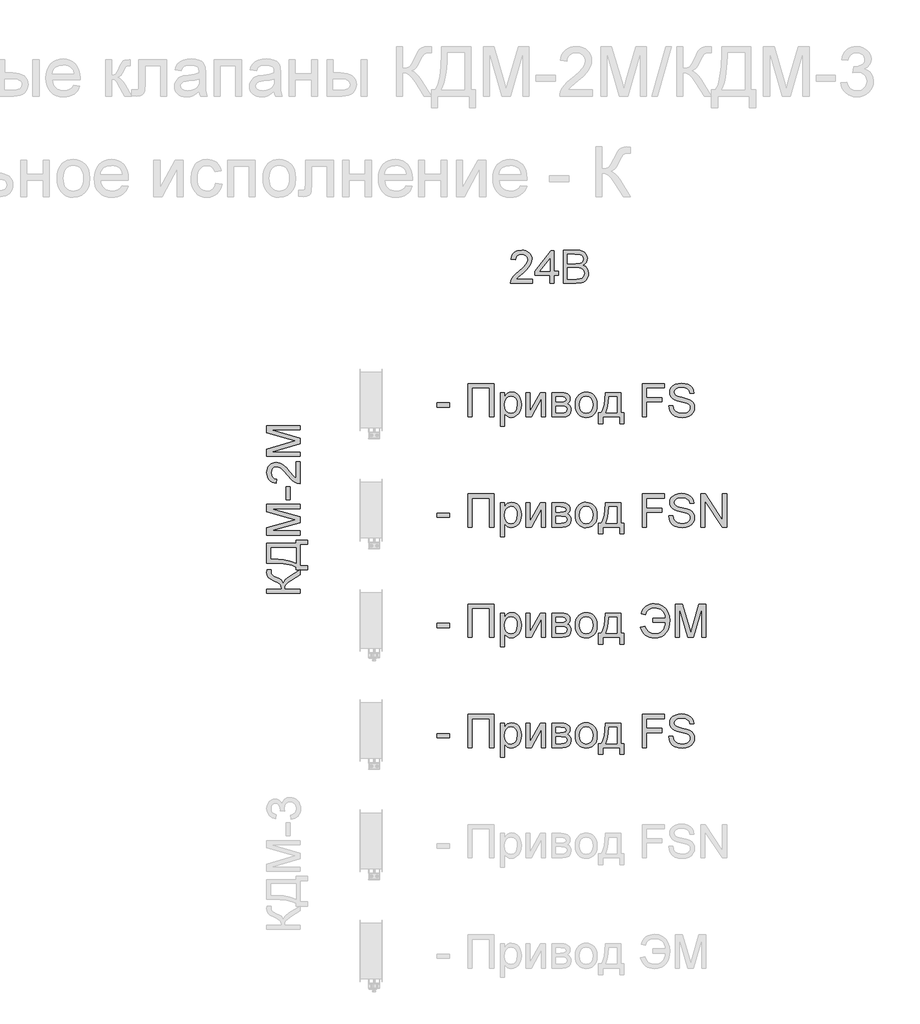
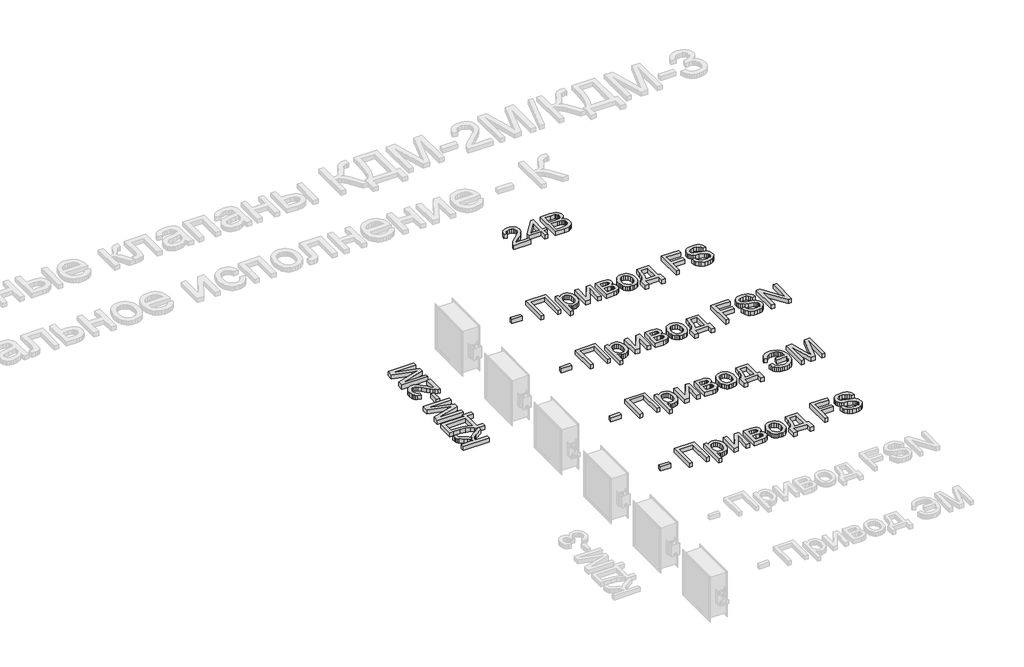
# One storey, part 14 of 23: 6 proxies.
"""IFC4 building model written with IfcOpenShell, lengths in millimetres."""

from ifc_helpers import new_model, si_unit, origin, origin_with_axes, place, context, project, spatial, polyline, outline, extrude, element, save

model = new_model("IFC4")

# Units and contexts
model_context = context("Model", 3, world=origin())
ifc_project = project(units=[si_unit("LENGTHUNIT", "METRE", prefix="MILLI")], contexts=[model_context])

# Site, building, storey
site = spatial("IfcSite", under=ifc_project)
building = spatial("IfcBuilding", under=site)
storey = spatial("IfcBuildingStorey", under=building, Name="Этаж 01", Elevation=0.0)

# Proxies
placement = place(None, origin())
element("IfcBuildingElementProxy", 1, Name="300 мм Arial", ObjectType="300 мм Arial", at=placement, inside=storey, context=model_context, shape_type="SweptSolid", body=[
    extrude(outline(polyline([(9504.7738082, -4434.3206311), (9504.7738082, -4396.6495148), (9622.4960467, -4396.6495148), (9622.4960467, -4434.3206311), (9504.7738082, -4434.3206311)])), origin_with_axes(), (0.0, 0.0, 1.0), 50.0),
    extrude(outline(polyline([(9787.3071805, -4222.4206019), (10022.7516574, -4222.4206019), (10022.7516574, -4523.7895324), (9985.0805411, -4523.7895324), (9985.0805411, -4260.0917182), (9824.9782968, -4260.0917182), (9824.9782968, -4523.7895324), (9787.3071805, -4523.7895324), (9787.3071805, -4222.4206019)])), origin_with_axes(), (0.0, 0.0, 1.0), 50.0),
    extrude(outline(polyline([(10083.9672214, -4608.5495441), (10083.9672214, -4302.4717241), (10121.6383378, -4302.4717241), (10121.6383378, -4339.4070764), (10133.9255964, -4321.1877206), (10147.684383, -4308.173895), (10163.724038, -4300.3655996), (10182.8539017, -4297.7628345), (10208.3297299, -4301.4048663), (10230.6049847, -4312.3309615), (10248.7415671, -4329.8789327), (10261.8013779, -4353.3865922), (10269.6924467, -4381.1432887), (10272.322803, -4411.438371), (10269.3521559, -4443.6556368), (10260.4402145, -4472.469994), (10245.8720875, -4496.4191119), (10225.9328834, -4514.0406595), (10202.7103324, -4524.8839813), (10178.292165, -4528.4984219), (10160.9741201, -4526.0795978), (10145.5138792, -4518.8231254), (10132.2793245, -4507.869439), (10121.6383378, -4494.3589728), (10121.6383378, -4608.5495441), (10083.9672214, -4608.5495441)]), holes=[polyline([(10121.6383378, -4414.8964618), (10125.7126308, -4448.668029), (10137.9355101, -4472.286053), (10155.970925, -4486.1919925), (10177.4828246, -4490.8273056), (10199.3442122, -4486.0264456), (10217.8394795, -4471.6238655), (10230.4486349, -4447.1413187), (10234.6516867, -4412.1005586), (10230.5498024, -4378.5129325), (10218.2441497, -4354.5638146), (10200.236326, -4340.2164168), (10179.027929, -4335.4339508), (10157.7367585, -4340.5199194), (10139.0391561, -4355.7778252), (10125.9885423, -4380.7294215), (10121.6383378, -4414.8964618)])]), origin_with_axes(), (0.0, 0.0, 1.0), 50.0),
    extrude(outline(polyline([(10314.7028088, -4302.4717241), (10352.3739251, -4302.4717241), (10352.3739251, -4471.2559835), (10444.9330351, -4302.4717241), (10493.6406113, -4302.4717241), (10493.6406113, -4523.7895324), (10455.969495, -4523.7895324), (10455.969495, -4356.0353426), (10363.9989962, -4523.7895324), (10314.7028088, -4523.7895324), (10314.7028088, -4302.4717241)])), origin_with_axes(), (0.0, 0.0, 1.0), 50.0),
    extrude(outline(polyline([(10550.1472857, -4302.4717241), (10633.1414638, -4302.4717241), (10659.8221055, -4303.7317199), (10678.6484666, -4307.5117074), (10692.4992238, -4314.6486181), (10704.2530535, -4325.9793836), (10712.2820781, -4340.7406486), (10714.9584196, -4358.1690581), (10713.3397388, -4372.2129533), (10708.4836965, -4384.325468), (10700.3718985, -4394.5617845), (10688.9859507, -4402.9770852), (10702.9286783, -4410.8037746), (10714.296232, -4423.3945359), (10721.856207, -4439.7560876), (10724.3761986, -4458.8951484), (10717.993446, -4487.6083381), (10702.8183137, -4507.8234538), (10678.7956194, -4519.7980127), (10645.8701809, -4523.7895324), (10550.1472857, -4523.7895324), (10550.1472857, -4302.4717241)]), holes=[polyline([(10587.818402, -4486.1184161), (10634.0243806, -4486.1184161), (10659.2059032, -4484.4169618), (10675.0064349, -4479.3125992), (10683.4861149, -4470.0327758), (10686.7050823, -4455.8049397), (10685.0955986, -4446.3779635), (10680.2671474, -4437.6683573), (10672.8543252, -4430.8533433), (10663.4917284, -4427.110144), (10630.3455607, -4424.9028521), (10587.818402, -4424.9028521), (10587.818402, -4486.1184161)]), polyline([(10587.818402, -4387.2317358), (10625.04806, -4387.2317358), (10655.7662065, -4385.3187494), (10670.7022156, -4377.6668039), (10675.6410313, -4371.3392336), (10677.2873033, -4363.8344409), (10674.3994296, -4352.5956459), (10665.7358086, -4345.3667647), (10650.0824297, -4341.4488215), (10626.2252823, -4340.1428404), (10587.818402, -4340.1428404), (10587.818402, -4387.2317358)])]), origin_with_axes(), (0.0, 0.0, 1.0), 50.0),
    extrude(outline(polyline([(10762.047315, -4413.1306282), (10764.0844615, -4384.4680223), (10770.1959011, -4359.7693448), (10780.3816339, -4339.0345959), (10794.6416597, -4322.2637754), (10808.9982546, -4311.5446138), (10824.8447715, -4303.8880698), (10842.1812106, -4299.2941433), (10861.0075717, -4297.7628345), (10881.7906051, -4299.6275364), (10900.5824773, -4305.221642), (10917.3831882, -4314.5451513), (10932.1927377, -4327.5980643), (10944.2799605, -4343.9389227), (10952.9136911, -4363.126268), (10958.0939294, -4385.1601003), (10959.8206756, -4410.0404195), (10956.767255, -4448.0978119), (10947.6069933, -4477.068519), (10932.606605, -4498.7643596), (10912.0328044, -4514.9971527), (10887.5962429, -4525.1231046), (10861.0075717, -4528.4984219), (10839.9210355, -4526.6406178), (10820.9544194, -4521.0672056), (10804.1077233, -4511.7781852), (10789.3809472, -4498.7735567), (10777.4224831, -4482.2740492), (10768.880723, -4462.500392), (10763.755667, -4439.452585), (10762.047315, -4413.1306282)]), holes=[polyline([(10799.7184313, -4413.0570518), (10804.0778329, -4447.1505157), (10817.1560378, -4471.4399245), (10836.8377246, -4485.9804603), (10861.0075717, -4490.8273056), (10885.0670541, -4485.9528692), (10904.7119527, -4471.3295599), (10917.7901576, -4446.7182544), (10922.1495593, -4411.8798294), (10917.7625665, -4378.7796469), (10904.6015881, -4354.821332), (10884.9290984, -4340.2807961), (10861.0075717, -4335.4339508), (10836.8377246, -4340.262402), (10817.1560378, -4354.7477556), (10804.0778329, -4378.981982), (10799.7184313, -4413.0570518)])]), origin_with_axes(), (0.0, 0.0, 1.0), 50.0),
    extrude(outline(polyline([(11035.1629082, -4302.4717241), (11176.4295943, -4302.4717241), (11176.4295943, -4486.1184161), (11204.6829316, -4486.1184161), (11204.6829316, -4585.0050964), (11167.0118152, -4585.0050964), (11167.0118152, -4523.7895324), (11011.6184605, -4523.7895324), (11011.6184605, -4585.0050964), (10973.9473442, -4585.0050964), (10973.9473442, -4486.1184161), (10997.4917919, -4486.1184161), (11014.6075017, -4455.1887373), (11026.5912577, -4414.2710624), (11033.4430598, -4363.3653913), (11035.1629082, -4302.4717241)]), holes=[polyline([(11068.1251349, -4340.1428404), (11065.0349262, -4386.2660455), (11059.2959671, -4425.9697099), (11050.9082576, -4459.2538334), (11039.8717977, -4486.1184161), (11138.758478, -4486.1184161), (11138.758478, -4340.1428404), (11068.1251349, -4340.1428404)])]), origin_with_axes(), (0.0, 0.0, 1.0), 50.0),
    extrude(outline(polyline([(11369.4940654, -4523.7895324), (11369.4940654, -4222.4206019), (11571.9763155, -4222.4206019), (11571.9763155, -4260.0917182), (11407.1651817, -4260.0917182), (11407.1651817, -4349.5606195), (11548.4318678, -4349.5606195), (11548.4318678, -4387.2317358), (11407.1651817, -4387.2317358), (11407.1651817, -4523.7895324), (11369.4940654, -4523.7895324)])), origin_with_axes(), (0.0, 0.0, 1.0), 50.0),
    extrude(outline(polyline([(11609.6474318, -4420.1939625), (11647.3185481, -4420.1939625), (11651.6411616, -4441.0988569), (11659.458654, -4457.901867), (11671.6539421, -4471.2375894), (11689.1099428, -4481.7406203), (11710.4470985, -4488.5556343), (11734.2858518, -4490.8273056), (11755.2735196, -4489.1074573), (11773.6492253, -4483.9479123), (11788.539249, -4475.780932), (11799.0698712, -4465.0387777), (11805.3330621, -4452.7055339), (11807.4207924, -4439.7652847), (11805.857294, -4427.1561293), (11801.1667985, -4416.2576252), (11791.6386549, -4406.9594078), (11775.5622117, -4399.1511124), (11720.7110062, -4384.7669264), (11684.7045559, -4375.2479798), (11661.665946, -4366.1888856), (11642.9131613, -4353.5153509), (11629.6234242, -4338.1562776), (11621.7047642, -4320.4427595), (11619.0652109, -4300.7058905), (11622.3301636, -4278.6421678), (11632.1250217, -4258.0683673), (11648.1922679, -4240.6307607), (11670.2743846, -4227.97562), (11696.7802824, -4220.2776893), (11726.1188715, -4217.7117124), (11757.9038759, -4220.3972509), (11785.7157547, -4228.4538666), (11808.5612266, -4241.7160126), (11825.4470102, -4260.0181418), (11836.1339822, -4282.2198202), (11840.3830192, -4307.1806136), (11802.7119029, -4307.1806136), (11795.7957214, -4284.7030237), (11781.3747472, -4268.4794277), (11758.841975, -4258.6569784), (11727.5903995, -4255.3828287), (11695.60306, -4258.6201902), (11673.658899, -4268.3322749), (11660.9669702, -4282.6244904), (11656.7363272, -4299.6022445), (11659.7345655, -4314.078401), (11668.7292803, -4325.7218662), (11689.9928596, -4336.1329266), (11730.2391499, -4346.7647163), (11771.7730271, -4356.8630771), (11796.8993674, -4365.6738508), (11818.3744789, -4379.340667), (11833.3564731, -4396.2080564), (11842.1580498, -4416.0920783), (11845.0919088, -4438.8087915), (11841.7165914, -4462.0313424), (11831.5906395, -4483.8743359), (11815.1279202, -4502.6731058), (11792.7423008, -4516.7629863), (11765.8225358, -4525.564563), (11735.7573798, -4528.4984219), (11698.8496186, -4525.3346367), (11668.4717629, -4515.8432813), (11644.2743246, -4499.9875673), (11625.907816, -4477.7307066), (11614.1171981, -4450.6178035), (11609.6474318, -4420.1939625)])), origin_with_axes(), (0.0, 0.0, 1.0), 50.0),
])
element("IfcBuildingElementProxy", 2, Name="300 мм Arial", ObjectType="300 мм Arial", at=placement, inside=storey, context=model_context, shape_type="SweptSolid", body=[
    extrude(outline(polyline([(9504.7738082, -5434.3206311), (9504.7738082, -5396.6495148), (9622.4960467, -5396.6495148), (9622.4960467, -5434.3206311), (9504.7738082, -5434.3206311)])), origin_with_axes(), (0.0, 0.0, 1.0), 50.0),
    extrude(outline(polyline([(9787.3071805, -5222.4206019), (10022.7516574, -5222.4206019), (10022.7516574, -5523.7895324), (9985.0805411, -5523.7895324), (9985.0805411, -5260.0917182), (9824.9782968, -5260.0917182), (9824.9782968, -5523.7895324), (9787.3071805, -5523.7895324), (9787.3071805, -5222.4206019)])), origin_with_axes(), (0.0, 0.0, 1.0), 50.0),
    extrude(outline(polyline([(10083.9672214, -5608.5495441), (10083.9672214, -5302.4717241), (10121.6383378, -5302.4717241), (10121.6383378, -5339.4070764), (10133.9255964, -5321.1877206), (10147.684383, -5308.173895), (10163.724038, -5300.3655996), (10182.8539017, -5297.7628345), (10208.3297299, -5301.4048663), (10230.6049847, -5312.3309615), (10248.7415671, -5329.8789327), (10261.8013779, -5353.3865922), (10269.6924467, -5381.1432887), (10272.322803, -5411.438371), (10269.3521559, -5443.6556368), (10260.4402145, -5472.469994), (10245.8720875, -5496.4191119), (10225.9328834, -5514.0406595), (10202.7103324, -5524.8839813), (10178.292165, -5528.4984219), (10160.9741201, -5526.0795978), (10145.5138792, -5518.8231254), (10132.2793245, -5507.869439), (10121.6383378, -5494.3589728), (10121.6383378, -5608.5495441), (10083.9672214, -5608.5495441)]), holes=[polyline([(10121.6383378, -5414.8964618), (10125.7126308, -5448.668029), (10137.9355101, -5472.286053), (10155.970925, -5486.1919925), (10177.4828246, -5490.8273056), (10199.3442122, -5486.0264456), (10217.8394795, -5471.6238655), (10230.4486349, -5447.1413187), (10234.6516867, -5412.1005586), (10230.5498024, -5378.5129325), (10218.2441497, -5354.5638146), (10200.236326, -5340.2164168), (10179.027929, -5335.4339508), (10157.7367585, -5340.5199194), (10139.0391561, -5355.7778252), (10125.9885423, -5380.7294215), (10121.6383378, -5414.8964618)])]), origin_with_axes(), (0.0, 0.0, 1.0), 50.0),
    extrude(outline(polyline([(10314.7028088, -5302.4717241), (10352.3739251, -5302.4717241), (10352.3739251, -5471.2559835), (10444.9330351, -5302.4717241), (10493.6406113, -5302.4717241), (10493.6406113, -5523.7895324), (10455.969495, -5523.7895324), (10455.969495, -5356.0353426), (10363.9989962, -5523.7895324), (10314.7028088, -5523.7895324), (10314.7028088, -5302.4717241)])), origin_with_axes(), (0.0, 0.0, 1.0), 50.0),
    extrude(outline(polyline([(10550.1472857, -5302.4717241), (10633.1414638, -5302.4717241), (10659.8221055, -5303.7317199), (10678.6484666, -5307.5117074), (10692.4992238, -5314.6486181), (10704.2530535, -5325.9793836), (10712.2820781, -5340.7406486), (10714.9584196, -5358.1690581), (10713.3397388, -5372.2129533), (10708.4836965, -5384.325468), (10700.3718985, -5394.5617845), (10688.9859507, -5402.9770852), (10702.9286783, -5410.8037746), (10714.296232, -5423.3945359), (10721.856207, -5439.7560876), (10724.3761986, -5458.8951484), (10717.993446, -5487.6083381), (10702.8183137, -5507.8234538), (10678.7956194, -5519.7980127), (10645.8701809, -5523.7895324), (10550.1472857, -5523.7895324), (10550.1472857, -5302.4717241)]), holes=[polyline([(10587.818402, -5486.1184161), (10634.0243806, -5486.1184161), (10659.2059032, -5484.4169618), (10675.0064349, -5479.3125992), (10683.4861149, -5470.0327758), (10686.7050823, -5455.8049397), (10685.0955986, -5446.3779635), (10680.2671474, -5437.6683573), (10672.8543252, -5430.8533433), (10663.4917284, -5427.110144), (10630.3455607, -5424.9028521), (10587.818402, -5424.9028521), (10587.818402, -5486.1184161)]), polyline([(10587.818402, -5387.2317358), (10625.04806, -5387.2317358), (10655.7662065, -5385.3187494), (10670.7022156, -5377.6668039), (10675.6410313, -5371.3392336), (10677.2873033, -5363.8344409), (10674.3994296, -5352.5956459), (10665.7358086, -5345.3667647), (10650.0824297, -5341.4488215), (10626.2252823, -5340.1428404), (10587.818402, -5340.1428404), (10587.818402, -5387.2317358)])]), origin_with_axes(), (0.0, 0.0, 1.0), 50.0),
    extrude(outline(polyline([(10762.047315, -5413.1306282), (10764.0844615, -5384.4680223), (10770.1959011, -5359.7693448), (10780.3816339, -5339.0345959), (10794.6416597, -5322.2637754), (10808.9982546, -5311.5446138), (10824.8447715, -5303.8880698), (10842.1812106, -5299.2941433), (10861.0075717, -5297.7628345), (10881.7906051, -5299.6275364), (10900.5824773, -5305.221642), (10917.3831882, -5314.5451513), (10932.1927377, -5327.5980643), (10944.2799605, -5343.9389227), (10952.9136911, -5363.126268), (10958.0939294, -5385.1601003), (10959.8206756, -5410.0404195), (10956.767255, -5448.0978119), (10947.6069933, -5477.068519), (10932.606605, -5498.7643596), (10912.0328044, -5514.9971527), (10887.5962429, -5525.1231046), (10861.0075717, -5528.4984219), (10839.9210355, -5526.6406178), (10820.9544194, -5521.0672056), (10804.1077233, -5511.7781852), (10789.3809472, -5498.7735567), (10777.4224831, -5482.2740492), (10768.880723, -5462.500392), (10763.755667, -5439.452585), (10762.047315, -5413.1306282)]), holes=[polyline([(10799.7184313, -5413.0570518), (10804.0778329, -5447.1505157), (10817.1560378, -5471.4399245), (10836.8377246, -5485.9804603), (10861.0075717, -5490.8273056), (10885.0670541, -5485.9528692), (10904.7119527, -5471.3295599), (10917.7901576, -5446.7182544), (10922.1495593, -5411.8798294), (10917.7625665, -5378.7796469), (10904.6015881, -5354.821332), (10884.9290984, -5340.2807961), (10861.0075717, -5335.4339508), (10836.8377246, -5340.262402), (10817.1560378, -5354.7477556), (10804.0778329, -5378.981982), (10799.7184313, -5413.0570518)])]), origin_with_axes(), (0.0, 0.0, 1.0), 50.0),
    extrude(outline(polyline([(11035.1629082, -5302.4717241), (11176.4295943, -5302.4717241), (11176.4295943, -5486.1184161), (11204.6829316, -5486.1184161), (11204.6829316, -5585.0050964), (11167.0118152, -5585.0050964), (11167.0118152, -5523.7895324), (11011.6184605, -5523.7895324), (11011.6184605, -5585.0050964), (10973.9473442, -5585.0050964), (10973.9473442, -5486.1184161), (10997.4917919, -5486.1184161), (11014.6075017, -5455.1887373), (11026.5912577, -5414.2710624), (11033.4430598, -5363.3653913), (11035.1629082, -5302.4717241)]), holes=[polyline([(11068.1251349, -5340.1428404), (11065.0349262, -5386.2660455), (11059.2959671, -5425.9697099), (11050.9082576, -5459.2538334), (11039.8717977, -5486.1184161), (11138.758478, -5486.1184161), (11138.758478, -5340.1428404), (11068.1251349, -5340.1428404)])]), origin_with_axes(), (0.0, 0.0, 1.0), 50.0),
    extrude(outline(polyline([(11369.4940654, -5523.7895324), (11369.4940654, -5222.4206019), (11571.9763155, -5222.4206019), (11571.9763155, -5260.0917182), (11407.1651817, -5260.0917182), (11407.1651817, -5349.5606195), (11548.4318678, -5349.5606195), (11548.4318678, -5387.2317358), (11407.1651817, -5387.2317358), (11407.1651817, -5523.7895324), (11369.4940654, -5523.7895324)])), origin_with_axes(), (0.0, 0.0, 1.0), 50.0),
    extrude(outline(polyline([(11609.6474318, -5420.1939625), (11647.3185481, -5420.1939625), (11651.6411616, -5441.0988569), (11659.458654, -5457.901867), (11671.6539421, -5471.2375894), (11689.1099428, -5481.7406203), (11710.4470985, -5488.5556343), (11734.2858518, -5490.8273056), (11755.2735196, -5489.1074573), (11773.6492253, -5483.9479123), (11788.539249, -5475.780932), (11799.0698712, -5465.0387777), (11805.3330621, -5452.7055339), (11807.4207924, -5439.7652847), (11805.857294, -5427.1561293), (11801.1667985, -5416.2576252), (11791.6386549, -5406.9594078), (11775.5622117, -5399.1511124), (11720.7110062, -5384.7669264), (11684.7045559, -5375.2479798), (11661.665946, -5366.1888856), (11642.9131613, -5353.5153509), (11629.6234242, -5338.1562776), (11621.7047642, -5320.4427595), (11619.0652109, -5300.7058905), (11622.3301636, -5278.6421678), (11632.1250217, -5258.0683673), (11648.1922679, -5240.6307607), (11670.2743846, -5227.97562), (11696.7802824, -5220.2776893), (11726.1188715, -5217.7117124), (11757.9038759, -5220.3972509), (11785.7157547, -5228.4538666), (11808.5612266, -5241.7160126), (11825.4470102, -5260.0181418), (11836.1339822, -5282.2198202), (11840.3830192, -5307.1806136), (11802.7119029, -5307.1806136), (11795.7957214, -5284.7030237), (11781.3747472, -5268.4794277), (11758.841975, -5258.6569784), (11727.5903995, -5255.3828287), (11695.60306, -5258.6201902), (11673.658899, -5268.3322749), (11660.9669702, -5282.6244904), (11656.7363272, -5299.6022445), (11659.7345655, -5314.078401), (11668.7292803, -5325.7218662), (11689.9928596, -5336.1329266), (11730.2391499, -5346.7647163), (11771.7730271, -5356.8630771), (11796.8993674, -5365.6738508), (11818.3744789, -5379.340667), (11833.3564731, -5396.2080564), (11842.1580498, -5416.0920783), (11845.0919088, -5438.8087915), (11841.7165914, -5462.0313424), (11831.5906395, -5483.8743359), (11815.1279202, -5502.6731058), (11792.7423008, -5516.7629863), (11765.8225358, -5525.564563), (11735.7573798, -5528.4984219), (11698.8496186, -5525.3346367), (11668.4717629, -5515.8432813), (11644.2743246, -5499.9875673), (11625.907816, -5477.7307066), (11614.1171981, -5450.6178035), (11609.6474318, -5420.1939625)])), origin_with_axes(), (0.0, 0.0, 1.0), 50.0),
    extrude(outline(polyline([(11901.5985832, -5523.7895324), (11901.5985832, -5222.4206019), (11941.9184499, -5222.4206019), (12099.3719438, -5461.1760168), (12099.3719438, -5222.4206019), (12137.0430601, -5222.4206019), (12137.0430601, -5523.7895324), (12096.7231935, -5523.7895324), (11939.2696995, -5284.9605411), (11939.2696995, -5523.7895324), (11901.5985832, -5523.7895324)])), origin_with_axes(), (0.0, 0.0, 1.0), 50.0),
])
element("IfcBuildingElementProxy", 3, Name="300 мм Arial", ObjectType="300 мм Arial", at=placement, inside=storey, context=model_context, shape_type="SweptSolid", body=[
    extrude(outline(polyline([(9504.7738082, -6434.3206311), (9504.7738082, -6396.6495148), (9622.4960467, -6396.6495148), (9622.4960467, -6434.3206311), (9504.7738082, -6434.3206311)])), origin_with_axes(), (0.0, 0.0, 1.0), 50.0),
    extrude(outline(polyline([(9787.3071805, -6222.4206019), (10022.7516574, -6222.4206019), (10022.7516574, -6523.7895324), (9985.0805411, -6523.7895324), (9985.0805411, -6260.0917182), (9824.9782968, -6260.0917182), (9824.9782968, -6523.7895324), (9787.3071805, -6523.7895324), (9787.3071805, -6222.4206019)])), origin_with_axes(), (0.0, 0.0, 1.0), 50.0),
    extrude(outline(polyline([(10083.9672214, -6608.5495441), (10083.9672214, -6302.4717241), (10121.6383378, -6302.4717241), (10121.6383378, -6339.4070764), (10133.9255964, -6321.1877206), (10147.684383, -6308.173895), (10163.724038, -6300.3655996), (10182.8539017, -6297.7628345), (10208.3297299, -6301.4048663), (10230.6049847, -6312.3309615), (10248.7415671, -6329.8789327), (10261.8013779, -6353.3865922), (10269.6924467, -6381.1432887), (10272.322803, -6411.438371), (10269.3521559, -6443.6556368), (10260.4402145, -6472.469994), (10245.8720875, -6496.4191119), (10225.9328834, -6514.0406595), (10202.7103324, -6524.8839813), (10178.292165, -6528.4984219), (10160.9741201, -6526.0795978), (10145.5138792, -6518.8231254), (10132.2793245, -6507.869439), (10121.6383378, -6494.3589728), (10121.6383378, -6608.5495441), (10083.9672214, -6608.5495441)]), holes=[polyline([(10121.6383378, -6414.8964618), (10125.7126308, -6448.668029), (10137.9355101, -6472.286053), (10155.970925, -6486.1919925), (10177.4828246, -6490.8273056), (10199.3442122, -6486.0264456), (10217.8394795, -6471.6238655), (10230.4486349, -6447.1413187), (10234.6516867, -6412.1005586), (10230.5498024, -6378.5129325), (10218.2441497, -6354.5638146), (10200.236326, -6340.2164168), (10179.027929, -6335.4339508), (10157.7367585, -6340.5199194), (10139.0391561, -6355.7778252), (10125.9885423, -6380.7294215), (10121.6383378, -6414.8964618)])]), origin_with_axes(), (0.0, 0.0, 1.0), 50.0),
    extrude(outline(polyline([(10314.7028088, -6302.4717241), (10352.3739251, -6302.4717241), (10352.3739251, -6471.2559835), (10444.9330351, -6302.4717241), (10493.6406113, -6302.4717241), (10493.6406113, -6523.7895324), (10455.969495, -6523.7895324), (10455.969495, -6356.0353426), (10363.9989962, -6523.7895324), (10314.7028088, -6523.7895324), (10314.7028088, -6302.4717241)])), origin_with_axes(), (0.0, 0.0, 1.0), 50.0),
    extrude(outline(polyline([(10550.1472857, -6302.4717241), (10633.1414638, -6302.4717241), (10659.8221055, -6303.7317199), (10678.6484666, -6307.5117074), (10692.4992238, -6314.6486181), (10704.2530535, -6325.9793836), (10712.2820781, -6340.7406486), (10714.9584196, -6358.1690581), (10713.3397388, -6372.2129533), (10708.4836965, -6384.325468), (10700.3718985, -6394.5617845), (10688.9859507, -6402.9770852), (10702.9286783, -6410.8037746), (10714.296232, -6423.3945359), (10721.856207, -6439.7560876), (10724.3761986, -6458.8951484), (10717.993446, -6487.6083381), (10702.8183137, -6507.8234538), (10678.7956194, -6519.7980127), (10645.8701809, -6523.7895324), (10550.1472857, -6523.7895324), (10550.1472857, -6302.4717241)]), holes=[polyline([(10587.818402, -6486.1184161), (10634.0243806, -6486.1184161), (10659.2059032, -6484.4169618), (10675.0064349, -6479.3125992), (10683.4861149, -6470.0327758), (10686.7050823, -6455.8049397), (10685.0955986, -6446.3779635), (10680.2671474, -6437.6683573), (10672.8543252, -6430.8533433), (10663.4917284, -6427.110144), (10630.3455607, -6424.9028521), (10587.818402, -6424.9028521), (10587.818402, -6486.1184161)]), polyline([(10587.818402, -6387.2317358), (10625.04806, -6387.2317358), (10655.7662065, -6385.3187494), (10670.7022156, -6377.6668039), (10675.6410313, -6371.3392336), (10677.2873033, -6363.8344409), (10674.3994296, -6352.5956459), (10665.7358086, -6345.3667647), (10650.0824297, -6341.4488215), (10626.2252823, -6340.1428404), (10587.818402, -6340.1428404), (10587.818402, -6387.2317358)])]), origin_with_axes(), (0.0, 0.0, 1.0), 50.0),
    extrude(outline(polyline([(10762.047315, -6413.1306282), (10764.0844615, -6384.4680223), (10770.1959011, -6359.7693448), (10780.3816339, -6339.0345959), (10794.6416597, -6322.2637754), (10808.9982546, -6311.5446138), (10824.8447715, -6303.8880698), (10842.1812106, -6299.2941433), (10861.0075717, -6297.7628345), (10881.7906051, -6299.6275364), (10900.5824773, -6305.221642), (10917.3831882, -6314.5451513), (10932.1927377, -6327.5980643), (10944.2799605, -6343.9389227), (10952.9136911, -6363.126268), (10958.0939294, -6385.1601003), (10959.8206756, -6410.0404195), (10956.767255, -6448.0978119), (10947.6069933, -6477.068519), (10932.606605, -6498.7643596), (10912.0328044, -6514.9971527), (10887.5962429, -6525.1231046), (10861.0075717, -6528.4984219), (10839.9210355, -6526.6406178), (10820.9544194, -6521.0672056), (10804.1077233, -6511.7781852), (10789.3809472, -6498.7735567), (10777.4224831, -6482.2740492), (10768.880723, -6462.500392), (10763.755667, -6439.452585), (10762.047315, -6413.1306282)]), holes=[polyline([(10799.7184313, -6413.0570518), (10804.0778329, -6447.1505157), (10817.1560378, -6471.4399245), (10836.8377246, -6485.9804603), (10861.0075717, -6490.8273056), (10885.0670541, -6485.9528692), (10904.7119527, -6471.3295599), (10917.7901576, -6446.7182544), (10922.1495593, -6411.8798294), (10917.7625665, -6378.7796469), (10904.6015881, -6354.821332), (10884.9290984, -6340.2807961), (10861.0075717, -6335.4339508), (10836.8377246, -6340.262402), (10817.1560378, -6354.7477556), (10804.0778329, -6378.981982), (10799.7184313, -6413.0570518)])]), origin_with_axes(), (0.0, 0.0, 1.0), 50.0),
    extrude(outline(polyline([(11035.1629082, -6302.4717241), (11176.4295943, -6302.4717241), (11176.4295943, -6486.1184161), (11204.6829316, -6486.1184161), (11204.6829316, -6585.0050964), (11167.0118152, -6585.0050964), (11167.0118152, -6523.7895324), (11011.6184605, -6523.7895324), (11011.6184605, -6585.0050964), (10973.9473442, -6585.0050964), (10973.9473442, -6486.1184161), (10997.4917919, -6486.1184161), (11014.6075017, -6455.1887373), (11026.5912577, -6414.2710624), (11033.4430598, -6363.3653913), (11035.1629082, -6302.4717241)]), holes=[polyline([(11068.1251349, -6340.1428404), (11065.0349262, -6386.2660455), (11059.2959671, -6425.9697099), (11050.9082576, -6459.2538334), (11039.8717977, -6486.1184161), (11138.758478, -6486.1184161), (11138.758478, -6340.1428404), (11068.1251349, -6340.1428404)])]), origin_with_axes(), (0.0, 0.0, 1.0), 50.0),
    extrude(outline(polyline([(11468.3807457, -6349.5606195), (11581.3940946, -6349.5606195), (11578.6947605, -6329.0121108), (11573.0983556, -6310.7030837), (11564.6048801, -6294.6335383), (11553.2143338, -6280.8034746), (11539.1520445, -6269.681942), (11522.64334, -6261.7379902), (11503.6882202, -6256.9716191), (11482.2866851, -6255.3828287), (11451.8674426, -6259.2088014), (11427.6378147, -6270.6867197), (11409.5978014, -6289.8165834), (11397.7474026, -6316.5983927), (11360.0762863, -6307.1806136), (11366.8637091, -6287.2873947), (11376.1895177, -6269.6934383), (11388.053712, -6254.3987444), (11402.4562922, -6241.4033129), (11419.0799598, -6231.0382377), (11437.6074168, -6223.6346125), (11458.0386631, -6219.1924374), (11480.3736987, -6217.7117124), (11521.4477235, -6223.1471689), (11556.3781189, -6239.4535383), (11584.1256184, -6264.2119966), (11603.6509553, -6295.0037196), (11615.211647, -6330.6054997), (11619.0652109, -6369.7941292), (11617.8925871, -6402.0136942), (11612.0938471, -6431.5707132), (11601.6689911, -6458.4651863), (11586.6180189, -6482.6971135), (11566.9777189, -6502.7351859), (11542.7848792, -6517.0480948), (11514.0394998, -6525.6358401), (11480.7415807, -6528.4984219), (11457.0545788, -6526.9533175), (11435.6576422, -6522.3180044), (11416.5507711, -6514.5924825), (11399.7339654, -6503.7767518), (11385.2072251, -6489.8708124), (11372.9705502, -6472.8746642), (11363.0239408, -6452.7883073), (11355.3673968, -6429.6117416), (11393.0385131, -6420.1939625), (11405.7672301, -6451.0960501), (11425.3385523, -6473.1689698), (11451.7524795, -6486.4127217), (11485.0090119, -6490.8273056), (11504.7182898, -6489.0936617), (11522.5697636, -6483.89273), (11538.5634333, -6475.2245105), (11552.699299, -6463.0890032), (11564.3979464, -6447.9460605), (11573.0799615, -6430.2555351), (11578.7453442, -6410.0174268), (11581.3940946, -6387.2317358), (11468.3807457, -6387.2317358), (11468.3807457, -6349.5606195)])), origin_with_axes(), (0.0, 0.0, 1.0), 50.0),
    extrude(outline(polyline([(11670.8629958, -6523.7895324), (11670.8629958, -6222.4206019), (11735.6838034, -6222.4206019), (11797.3408258, -6434.8356659), (11809.7752372, -6479.2022346), (11823.2397182, -6431.156846), (11883.866671, -6222.4206019), (11948.6874786, -6222.4206019), (11948.6874786, -6523.7895324), (11911.0163623, -6523.7895324), (11911.0163623, -6260.0917182), (11835.3062477, -6523.7895324), (11784.2442268, -6523.7895324), (11708.5341121, -6260.0917182), (11708.5341121, -6523.7895324), (11670.8629958, -6523.7895324)])), origin_with_axes(), (0.0, 0.0, 1.0), 50.0),
])
element("IfcBuildingElementProxy", 4, Name="300 мм Arial", ObjectType="300 мм Arial", at=placement, inside=storey, context=model_context, shape_type="SweptSolid", body=[
    extrude(outline(polyline([(9504.7738082, -7434.3206311), (9504.7738082, -7396.6495148), (9622.4960467, -7396.6495148), (9622.4960467, -7434.3206311), (9504.7738082, -7434.3206311)])), origin_with_axes(), (0.0, 0.0, 1.0), 50.0),
    extrude(outline(polyline([(9787.3071805, -7222.4206019), (10022.7516574, -7222.4206019), (10022.7516574, -7523.7895324), (9985.0805411, -7523.7895324), (9985.0805411, -7260.0917182), (9824.9782968, -7260.0917182), (9824.9782968, -7523.7895324), (9787.3071805, -7523.7895324), (9787.3071805, -7222.4206019)])), origin_with_axes(), (0.0, 0.0, 1.0), 50.0),
    extrude(outline(polyline([(10083.9672214, -7608.5495441), (10083.9672214, -7302.4717241), (10121.6383378, -7302.4717241), (10121.6383378, -7339.4070764), (10133.9255964, -7321.1877206), (10147.684383, -7308.173895), (10163.724038, -7300.3655996), (10182.8539017, -7297.7628345), (10208.3297299, -7301.4048663), (10230.6049847, -7312.3309615), (10248.7415671, -7329.8789327), (10261.8013779, -7353.3865922), (10269.6924467, -7381.1432887), (10272.322803, -7411.438371), (10269.3521559, -7443.6556368), (10260.4402145, -7472.469994), (10245.8720875, -7496.4191119), (10225.9328834, -7514.0406595), (10202.7103324, -7524.8839813), (10178.292165, -7528.4984219), (10160.9741201, -7526.0795978), (10145.5138792, -7518.8231254), (10132.2793245, -7507.869439), (10121.6383378, -7494.3589728), (10121.6383378, -7608.5495441), (10083.9672214, -7608.5495441)]), holes=[polyline([(10121.6383378, -7414.8964618), (10125.7126308, -7448.668029), (10137.9355101, -7472.286053), (10155.970925, -7486.1919925), (10177.4828246, -7490.8273056), (10199.3442122, -7486.0264456), (10217.8394795, -7471.6238655), (10230.4486349, -7447.1413187), (10234.6516867, -7412.1005586), (10230.5498024, -7378.5129325), (10218.2441497, -7354.5638146), (10200.236326, -7340.2164168), (10179.027929, -7335.4339508), (10157.7367585, -7340.5199194), (10139.0391561, -7355.7778252), (10125.9885423, -7380.7294215), (10121.6383378, -7414.8964618)])]), origin_with_axes(), (0.0, 0.0, 1.0), 50.0),
    extrude(outline(polyline([(10314.7028088, -7302.4717241), (10352.3739251, -7302.4717241), (10352.3739251, -7471.2559835), (10444.9330351, -7302.4717241), (10493.6406113, -7302.4717241), (10493.6406113, -7523.7895324), (10455.969495, -7523.7895324), (10455.969495, -7356.0353426), (10363.9989962, -7523.7895324), (10314.7028088, -7523.7895324), (10314.7028088, -7302.4717241)])), origin_with_axes(), (0.0, 0.0, 1.0), 50.0),
    extrude(outline(polyline([(10550.1472857, -7302.4717241), (10633.1414638, -7302.4717241), (10659.8221055, -7303.7317199), (10678.6484666, -7307.5117074), (10692.4992238, -7314.6486181), (10704.2530535, -7325.9793836), (10712.2820781, -7340.7406486), (10714.9584196, -7358.1690581), (10713.3397388, -7372.2129533), (10708.4836965, -7384.325468), (10700.3718985, -7394.5617845), (10688.9859507, -7402.9770852), (10702.9286783, -7410.8037746), (10714.296232, -7423.3945359), (10721.856207, -7439.7560876), (10724.3761986, -7458.8951484), (10717.993446, -7487.6083381), (10702.8183137, -7507.8234538), (10678.7956194, -7519.7980127), (10645.8701809, -7523.7895324), (10550.1472857, -7523.7895324), (10550.1472857, -7302.4717241)]), holes=[polyline([(10587.818402, -7486.1184161), (10634.0243806, -7486.1184161), (10659.2059032, -7484.4169618), (10675.0064349, -7479.3125992), (10683.4861149, -7470.0327758), (10686.7050823, -7455.8049397), (10685.0955986, -7446.3779635), (10680.2671474, -7437.6683573), (10672.8543252, -7430.8533433), (10663.4917284, -7427.110144), (10630.3455607, -7424.9028521), (10587.818402, -7424.9028521), (10587.818402, -7486.1184161)]), polyline([(10587.818402, -7387.2317358), (10625.04806, -7387.2317358), (10655.7662065, -7385.3187494), (10670.7022156, -7377.6668039), (10675.6410313, -7371.3392336), (10677.2873033, -7363.8344409), (10674.3994296, -7352.5956459), (10665.7358086, -7345.3667647), (10650.0824297, -7341.4488215), (10626.2252823, -7340.1428404), (10587.818402, -7340.1428404), (10587.818402, -7387.2317358)])]), origin_with_axes(), (0.0, 0.0, 1.0), 50.0),
    extrude(outline(polyline([(10762.047315, -7413.1306282), (10764.0844615, -7384.4680223), (10770.1959011, -7359.7693448), (10780.3816339, -7339.0345959), (10794.6416597, -7322.2637754), (10808.9982546, -7311.5446138), (10824.8447715, -7303.8880698), (10842.1812106, -7299.2941433), (10861.0075717, -7297.7628345), (10881.7906051, -7299.6275364), (10900.5824773, -7305.221642), (10917.3831882, -7314.5451513), (10932.1927377, -7327.5980643), (10944.2799605, -7343.9389227), (10952.9136911, -7363.126268), (10958.0939294, -7385.1601003), (10959.8206756, -7410.0404195), (10956.767255, -7448.0978119), (10947.6069933, -7477.068519), (10932.606605, -7498.7643596), (10912.0328044, -7514.9971527), (10887.5962429, -7525.1231046), (10861.0075717, -7528.4984219), (10839.9210355, -7526.6406178), (10820.9544194, -7521.0672056), (10804.1077233, -7511.7781852), (10789.3809472, -7498.7735567), (10777.4224831, -7482.2740492), (10768.880723, -7462.500392), (10763.755667, -7439.452585), (10762.047315, -7413.1306282)]), holes=[polyline([(10799.7184313, -7413.0570518), (10804.0778329, -7447.1505157), (10817.1560378, -7471.4399245), (10836.8377246, -7485.9804603), (10861.0075717, -7490.8273056), (10885.0670541, -7485.9528692), (10904.7119527, -7471.3295599), (10917.7901576, -7446.7182544), (10922.1495593, -7411.8798294), (10917.7625665, -7378.7796469), (10904.6015881, -7354.821332), (10884.9290984, -7340.2807961), (10861.0075717, -7335.4339508), (10836.8377246, -7340.262402), (10817.1560378, -7354.7477556), (10804.0778329, -7378.981982), (10799.7184313, -7413.0570518)])]), origin_with_axes(), (0.0, 0.0, 1.0), 50.0),
    extrude(outline(polyline([(11035.1629082, -7302.4717241), (11176.4295943, -7302.4717241), (11176.4295943, -7486.1184161), (11204.6829316, -7486.1184161), (11204.6829316, -7585.0050964), (11167.0118152, -7585.0050964), (11167.0118152, -7523.7895324), (11011.6184605, -7523.7895324), (11011.6184605, -7585.0050964), (10973.9473442, -7585.0050964), (10973.9473442, -7486.1184161), (10997.4917919, -7486.1184161), (11014.6075017, -7455.1887373), (11026.5912577, -7414.2710624), (11033.4430598, -7363.3653913), (11035.1629082, -7302.4717241)]), holes=[polyline([(11068.1251349, -7340.1428404), (11065.0349262, -7386.2660455), (11059.2959671, -7425.9697099), (11050.9082576, -7459.2538334), (11039.8717977, -7486.1184161), (11138.758478, -7486.1184161), (11138.758478, -7340.1428404), (11068.1251349, -7340.1428404)])]), origin_with_axes(), (0.0, 0.0, 1.0), 50.0),
    extrude(outline(polyline([(11369.4940654, -7523.7895324), (11369.4940654, -7222.4206019), (11571.9763155, -7222.4206019), (11571.9763155, -7260.0917182), (11407.1651817, -7260.0917182), (11407.1651817, -7349.5606195), (11548.4318678, -7349.5606195), (11548.4318678, -7387.2317358), (11407.1651817, -7387.2317358), (11407.1651817, -7523.7895324), (11369.4940654, -7523.7895324)])), origin_with_axes(), (0.0, 0.0, 1.0), 50.0),
    extrude(outline(polyline([(11609.6474318, -7420.1939625), (11647.3185481, -7420.1939625), (11651.6411616, -7441.0988569), (11659.458654, -7457.901867), (11671.6539421, -7471.2375894), (11689.1099428, -7481.7406203), (11710.4470985, -7488.5556343), (11734.2858518, -7490.8273056), (11755.2735196, -7489.1074573), (11773.6492253, -7483.9479123), (11788.539249, -7475.780932), (11799.0698712, -7465.0387777), (11805.3330621, -7452.7055339), (11807.4207924, -7439.7652847), (11805.857294, -7427.1561293), (11801.1667985, -7416.2576252), (11791.6386549, -7406.9594078), (11775.5622117, -7399.1511124), (11720.7110062, -7384.7669264), (11684.7045559, -7375.2479798), (11661.665946, -7366.1888856), (11642.9131613, -7353.5153509), (11629.6234242, -7338.1562776), (11621.7047642, -7320.4427595), (11619.0652109, -7300.7058905), (11622.3301636, -7278.6421678), (11632.1250217, -7258.0683673), (11648.1922679, -7240.6307607), (11670.2743846, -7227.97562), (11696.7802824, -7220.2776893), (11726.1188715, -7217.7117124), (11757.9038759, -7220.3972509), (11785.7157547, -7228.4538666), (11808.5612266, -7241.7160126), (11825.4470102, -7260.0181418), (11836.1339822, -7282.2198202), (11840.3830192, -7307.1806136), (11802.7119029, -7307.1806136), (11795.7957214, -7284.7030237), (11781.3747472, -7268.4794277), (11758.841975, -7258.6569784), (11727.5903995, -7255.3828287), (11695.60306, -7258.6201902), (11673.658899, -7268.3322749), (11660.9669702, -7282.6244904), (11656.7363272, -7299.6022445), (11659.7345655, -7314.078401), (11668.7292803, -7325.7218662), (11689.9928596, -7336.1329266), (11730.2391499, -7346.7647163), (11771.7730271, -7356.8630771), (11796.8993674, -7365.6738508), (11818.3744789, -7379.340667), (11833.3564731, -7396.2080564), (11842.1580498, -7416.0920783), (11845.0919088, -7438.8087915), (11841.7165914, -7462.0313424), (11831.5906395, -7483.8743359), (11815.1279202, -7502.6731058), (11792.7423008, -7516.7629863), (11765.8225358, -7525.564563), (11735.7573798, -7528.4984219), (11698.8496186, -7525.3346367), (11668.4717629, -7515.8432813), (11644.2743246, -7499.9875673), (11625.907816, -7477.7307066), (11614.1171981, -7450.6178035), (11609.6474318, -7420.1939625)])), origin_with_axes(), (0.0, 0.0, 1.0), 50.0),
])
element("IfcBuildingElementProxy", 5, Name="300 мм Arial", ObjectType="300 мм Arial", at=placement, inside=storey, context=model_context, shape_type="SweptSolid", body=[
    extrude(outline(polyline([(7962.355345, -6122.4984014), (7962.355345, -6084.8272851), (8094.2042521, -6084.8272851), (8091.7118516, -6059.3238658), (8084.23465, -6042.7047967), (8066.6406936, -6029.2679068), (8033.7980285, -6013.3110252), (7991.6755401, -5992.5256925), (7980.2620012, -5982.5009082), (7970.8166309, -5968.9812448), (7964.4706665, -5952.9323928), (7962.355345, -5935.3200423), (7962.7968034, -5910.5983722), (8000.4679197, -5910.5983722), (8000.2471905, -5918.9125053), (8000.0264613, -5927.2266384), (8002.2889356, -5944.4803039), (8009.0763584, -5956.657198), (8023.3317857, -5967.1418349), (8047.8511207, -5979.0244233), (8078.3853263, -5993.6017474), (8095.0871689, -6005.6958679), (8110.6853655, -6031.705125), (8116.8933742, -6017.1140054), (8127.7183019, -6002.6240533), (8163.2189144, -5973.9476518), (8263.7242755, -5910.5983722), (8263.7242755, -5954.3027532), (8178.817111, -6007.8663717), (8151.5846463, -6028.5505369), (8134.4873306, -6045.5742762), (8125.4650246, -6062.9842916), (8122.4575893, -6084.8272851), (8263.7242755, -6084.8272851), (8263.7242755, -6122.4984014), (7962.355345, -6122.4984014)])), origin_with_axes(), (0.0, 0.0, 1.0), 50.0),
    extrude(outline(polyline([(7962.355345, -5849.3828082), (7962.355345, -5670.4450057), (8226.0531592, -5670.4450057), (8226.0531592, -5642.1916685), (8334.3576186, -5642.1916685), (8334.3576186, -5679.8627848), (8263.7242755, -5679.8627848), (8263.7242755, -5872.9272559), (8334.3576186, -5872.9272559), (8334.3576186, -5910.5983722), (8263.7242755, -5910.5983722), (8226.0531592, -5910.5983722), (8226.0531592, -5887.0539245), (8191.8815204, -5870.5728111), (8143.8131392, -5858.8005873), (8081.8480156, -5851.737253), (8005.9861497, -5849.3828082), (7962.355345, -5849.3828082)]), holes=[polyline([(8000.0264613, -5708.116122), (8000.0264613, -5811.7116919), (8015.1831995, -5811.7116919), (8118.4108874, -5819.3636374), (8178.0629529, -5830.6944028), (8226.0531592, -5849.3828082), (8226.0531592, -5708.116122), (8000.0264613, -5708.116122)])]), origin_with_axes(), (0.0, 0.0, 1.0), 50.0),
    extrude(outline(polyline([(8263.7242755, -5595.1027731), (7962.355345, -5595.1027731), (7962.355345, -5530.2819656), (8174.7704091, -5468.6249432), (8219.1369777, -5456.1905318), (8171.0915891, -5442.7260507), (7962.355345, -5382.0990979), (7962.355345, -5317.2782904), (8263.7242755, -5317.2782904), (8263.7242755, -5354.9494067), (8000.0264613, -5354.9494067), (8263.7242755, -5430.6595213), (8263.7242755, -5481.7215422), (8000.0264613, -5557.4316568), (8263.7242755, -5557.4316568), (8263.7242755, -5595.1027731)])), origin_with_axes(), (0.0, 0.0, 1.0), 50.0),
    extrude(outline(polyline([(8174.2553743, -5274.8982845), (8136.584258, -5274.8982845), (8136.584258, -5157.1760461), (8174.2553743, -5157.1760461), (8174.2553743, -5274.8982845)])), origin_with_axes(), (0.0, 0.0, 1.0), 50.0),
    extrude(outline(polyline([(8226.0531592, -4931.1493482), (8263.7242755, -4931.1493482), (8263.7242755, -5128.9227088), (8237.7518066, -5124.8760069), (8217.4539175, -5115.5869865), (8197.7630338, -5101.9937468), (8177.152445, -5082.3304542), (8154.0954409, -5054.831275), (8117.9878231, -5014.1803145), (8091.3347725, -4989.7897383), (8069.7033112, -4977.5944501), (8048.6604611, -4973.5293541), (8029.7973118, -4977.3645239), (8014.1163418, -4988.8700333), (8003.5489314, -5006.5559602), (8000.0264613, -5028.9323826), (8003.466158, -5052.430845), (8013.785248, -5070.686989), (8030.1743908, -5082.4684099), (8051.8242463, -5086.542703), (8047.1153567, -5124.2138193), (8010.6766451, -5115.0811488), (7996.1407078, -5106.5347902), (7984.0603828, -5095.3350827), (7974.5644288, -5081.7395437), (7967.7816045, -5066.0056906), (7962.355345, -5028.1230422), (7963.8636612, -5007.9332184), (7968.3886098, -4989.9644822), (7975.9301907, -4974.2168336), (7986.4884039, -4960.6902724), (7999.2815003, -4949.8262573), (8013.5277306, -4942.0662464), (8029.2270947, -4937.4102399), (8046.3795927, -4935.8582378), (8064.3966134, -4937.5321009), (8082.1009345, -4942.5536901), (8100.1087581, -4951.4656314), (8119.0362868, -4964.8105508), (8141.6334383, -4986.0833272), (8170.6501307, -5018.7788395), (8206.8865072, -5062.1153385), (8226.0531592, -5079.1114867), (8226.0531592, -4931.1493482)])), origin_with_axes(), (0.0, 0.0, 1.0), 50.0),
    extrude(outline(polyline([(8263.7242755, -4879.3515633), (7962.355345, -4879.3515633), (7962.355345, -4814.5307558), (8174.7704091, -4752.8737334), (8219.1369777, -4740.4393219), (8171.0915891, -4726.9748409), (7962.355345, -4666.3478881), (7962.355345, -4601.5270806), (8263.7242755, -4601.5270806), (8263.7242755, -4639.1981969), (8000.0264613, -4639.1981969), (8263.7242755, -4714.9083115), (8263.7242755, -4765.9703324), (8000.0264613, -4841.680447), (8263.7242755, -4841.680447), (8263.7242755, -4879.3515633)])), origin_with_axes(), (0.0, 0.0, 1.0), 50.0),
])
element("IfcBuildingElementProxy", 6, Name="300 мм Arial", ObjectType="300 мм Arial", at=placement, inside=storey, context=model_context, shape_type="SweptSolid", body=[
    extrude(outline(polyline([(10372.9728635, -3273.066365), (10372.9728635, -3310.7374813), (10175.1995029, -3310.7374813), (10179.2462048, -3284.7650124), (10188.5352252, -3264.4671233), (10202.1284649, -3244.7762395), (10221.7917576, -3224.1656508), (10249.2909367, -3201.1086467), (10289.9418972, -3165.0010289), (10314.3324735, -3138.3479783), (10326.5277616, -3116.716517), (10330.5928576, -3095.6736669), (10326.7576878, -3076.8105176), (10315.2521784, -3061.1295476), (10297.5662515, -3050.5621372), (10275.1898292, -3047.0396671), (10251.6913667, -3050.4793638), (10233.4352227, -3060.7984538), (10221.6538018, -3077.1875966), (10217.5795087, -3098.8374521), (10179.9083924, -3094.1285625), (10189.041063, -3057.6898509), (10197.5874216, -3043.1539136), (10208.787129, -3031.0735886), (10222.382668, -3021.5776346), (10238.1165211, -3014.7948103), (10275.9991696, -3009.3685508), (10296.1889933, -3010.876867), (10314.1577295, -3015.4018156), (10329.9053782, -3022.9433965), (10343.4319393, -3033.5016097), (10354.2959544, -3046.2947061), (10362.0559653, -3060.5409364), (10366.7119718, -3076.2403005), (10368.263974, -3093.3927985), (10366.5901109, -3111.4098192), (10361.5685216, -3129.1141403), (10352.6565803, -3147.1219639), (10339.3116609, -3166.0494926), (10318.0388846, -3188.6466441), (10285.3433722, -3217.6633365), (10242.0068732, -3253.899713), (10225.010725, -3273.066365), (10372.9728635, -3273.066365)])), origin_with_axes(), (0.0, 0.0, 1.0), 50.0),
    extrude(outline(polyline([(10533.0751078, -3310.7374813), (10533.0751078, -3240.1041382), (10396.5173112, -3240.1041382), (10396.5173112, -3202.4330219), (10542.4928869, -3014.0774404), (10570.7462241, -3014.0774404), (10570.7462241, -3202.4330219), (10608.4173404, -3202.4330219), (10608.4173404, -3240.1041382), (10570.7462241, -3240.1041382), (10570.7462241, -3310.7374813), (10533.0751078, -3310.7374813)]), holes=[polyline([(10533.0751078, -3202.4330219), (10533.0751078, -3086.0351586), (10442.8704426, -3202.4330219), (10533.0751078, -3202.4330219)])]), origin_with_axes(), (0.0, 0.0, 1.0), 50.0),
    extrude(outline(polyline([(10655.5062358, -3310.7374813), (10655.5062358, -3009.3685508), (10770.5061475, -3009.3685508), (10802.134802, -3011.5850399), (10826.8288809, -3018.2345069), (10845.7564096, -3029.4824989), (10860.0854133, -3045.4945628), (10869.1077192, -3064.3301209), (10872.1151545, -3084.0485959), (10869.5859658, -3102.1943753), (10861.9983997, -3119.2549028), (10849.2972738, -3134.1817147), (10831.4274059, -3145.9263474), (10852.7737586, -3157.0731719), (10868.5466992, -3174.0325319), (10878.286375, -3195.6823873), (10881.5329336, -3220.9006981), (10879.3164446, -3241.915957), (10872.6669775, -3261.4045057), (10862.7433607, -3277.9775896), (10850.7044224, -3290.2464542), (10835.9615515, -3299.1308043), (10817.9261367, -3305.5503452), (10769.6232307, -3310.7374813), (10655.5062358, -3310.7374813)]), holes=[polyline([(10693.1773521, -3273.066365), (10770.4325711, -3273.066365), (10798.3916027, -3271.594837), (10822.046415, -3263.3910685), (10837.718188, -3246.6524377), (10842.32591, -3234.8250316), (10843.8618173, -3221.2685801), (10842.0591955, -3205.5232307), (10836.6513302, -3191.9851732), (10827.20596, -3181.3993688), (10813.2908235, -3174.5107785), (10793.5815456, -3170.730791), (10766.7537511, -3169.4707951), (10693.1773521, -3169.4707951), (10693.1773521, -3273.066365)]), polyline([(10693.1773521, -3131.7996788), (10761.9712852, -3131.7996788), (10802.1439991, -3128.5623173), (10816.2062883, -3122.979708), (10826.3138461, -3114.6195897), (10832.4114902, -3103.6107209), (10834.4440382, -3090.0818606), (10832.549446, -3076.9484733), (10826.8656691, -3065.5073433), (10817.6502252, -3056.5770079), (10805.1606314, -3050.9760045), (10756.7473609, -3047.0396671), (10693.1773521, -3047.0396671), (10693.1773521, -3131.7996788)])]), origin_with_axes(), (0.0, 0.0, 1.0), 50.0),
])

save(model, "model.ifc")
